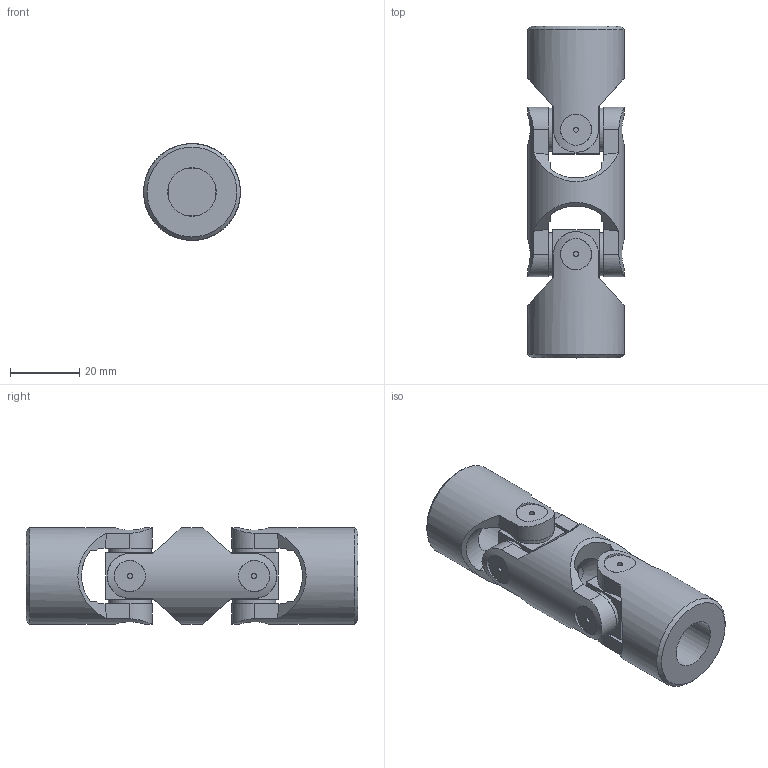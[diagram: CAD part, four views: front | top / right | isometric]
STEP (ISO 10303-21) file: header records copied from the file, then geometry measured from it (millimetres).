
FILE_DESCRIPTION(/* description */ (''),/* implementation_level */ '2;1');
FILE_NAME(/* name */ '\\SRV2016\Societa\Stefano\Disegni 3D\00Catalogo 3D\02Doppi GD-GBD\SG0D1400.stp',/* time_stamp */ '2021-11-22T17:08:03+01:00',/* author */ ('acquisti'),/* organization */ (''),/* preprocessor_version */ 'ST-DEVELOPER v15.6',/* originating_system */ 'Autodesk Inventor 2015',/* authorisation */ '');
FILE_SCHEMA (('AUTOMOTIVE_DESIGN { 1 0 10303 214 3 1 1 }'));
Length unit declared in the file: millimetre
Products named in the file (4): 05G MOD; 05G SFE; 05G MOS; Ø22_05GD-00_SG0D1400
Assembly tree (5 placements, depth 2):
  Ø22_05GD-00_SG0D1400
    05G MOD
    05G SFE  x2
    05G MOS  x2
Bounding box: 28 x 96 x 28 mm (x, y, z)
Volume: 37578.9 mm3; surface area: 16307 mm2
Topology: 5 solids, 5 shells, 137 faces, 331 edges, 224 vertices
Faces by surface type: plane 70, cylinder 41, cone 22, torus 4
Full cylindrical faces by diameter (mm): 1.5 x8, 9 x8, 12.5 x8, 14 x2, 14.5 x4, 28 x3
Entity records: 3226 total; most frequent: CARTESIAN_POINT 1166, DIRECTION 394, ORIENTED_EDGE 386, EDGE_CURVE 193, AXIS2_PLACEMENT_3D 173, VERTEX_POINT 147, EDGE_LOOP 140, FACE_OUTER_BOUND 94
